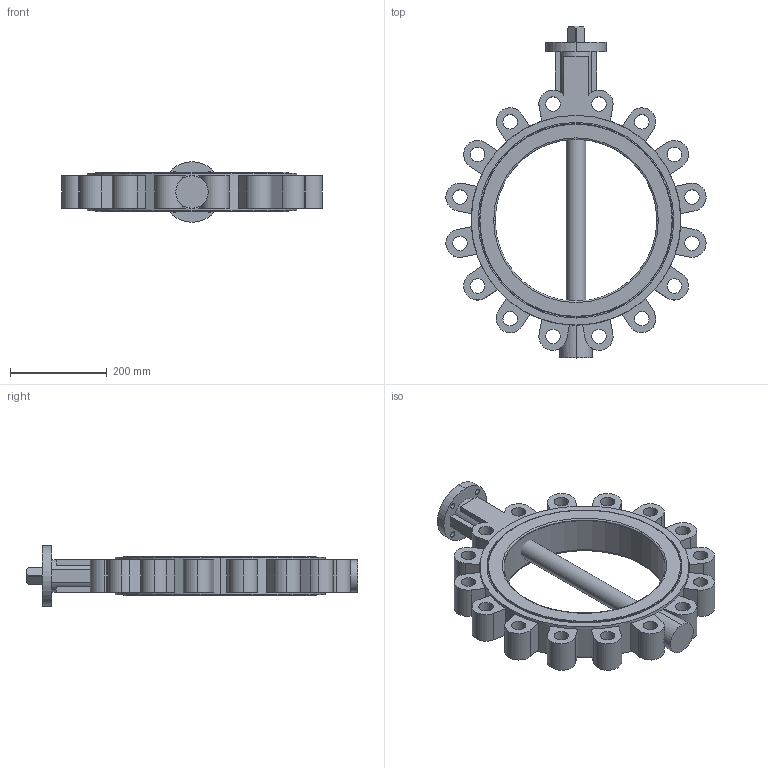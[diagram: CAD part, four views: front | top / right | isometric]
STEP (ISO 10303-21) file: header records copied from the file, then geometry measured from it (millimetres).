
FILE_DESCRIPTION (( 'STEP AP203' ), '1' );
FILE_NAME ('2502 LT型中线衬胶带销 无头蝶阀 DN350 PN25 CD0309395.STEP', '2026-05-29T07:13:49', ( '' ), ( '' ), 'SwSTEP 2.0', 'SolidWorks 2021', '' );
FILE_SCHEMA (( 'CONFIG_CONTROL_DESIGN' ));
Length unit declared in the file: millimetre
Products named in the file (4): GALA-D350-01LC25-01; 2502 LT型中线衬胶带销 无头蝶阀 DN350 PN25 CD0309395; 中线通轴带销衬胶蝶阀阀轴-DN350-GALA-D350-03ZC-01; GALA-D350-04AZC-00
Assembly tree (3 placements, depth 2):
  2502 LT型中线衬胶带销 无头蝶阀 DN350 PN25 CD0309395
    GALA-D350-01LC25-01
    GALA-D350-04AZC-00
    中线通轴带销衬胶蝶阀阀轴-DN350-GALA-D350-03ZC-01
Bounding box: 538.58 x 687 x 125 mm (x, y, z)
Volume: 8934218.7 mm3; surface area: 1005959.8 mm2
Topology: 3 solids, 7 shells, 246 faces, 600 edges, 383 vertices
Faces by surface type: plane 109, cylinder 98, cone 21, torus 18
Entity records: 8037 total; most frequent: CARTESIAN_POINT 1561, DIRECTION 1363, ORIENTED_EDGE 1200, EDGE_CURVE 600, AXIS2_PLACEMENT_3D 541, VERTEX_POINT 383, EDGE_LOOP 305, CIRCLE 289
